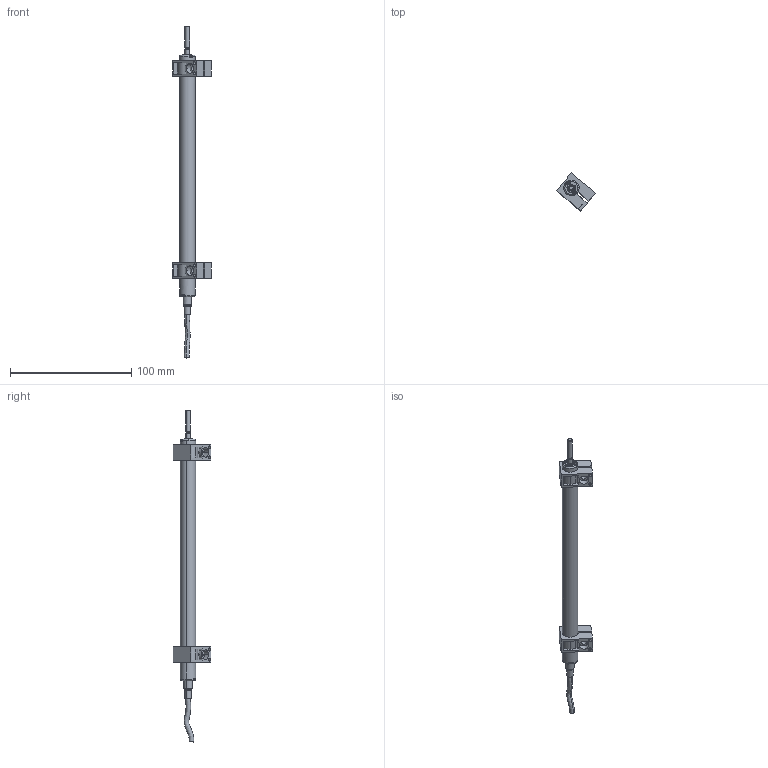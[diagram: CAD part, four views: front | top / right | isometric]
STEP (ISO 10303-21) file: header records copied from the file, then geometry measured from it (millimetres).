
FILE_DESCRIPTION(('STEP AP203'),'1');
FILE_NAME('C:/TPO v2/SharedFS/Outgoing/burster_8709-5155_1rwxs6ax9we78amc85t6kzrxc.stp','2013-08-27T15:08:39',('TraceParts'),('TraceParts S.A.'),'XStep 1.0',' ',' ');
FILE_SCHEMA(('CONFIG_CONTROL_DESIGN'));
Length unit declared in the file: millimetre
Products named in the file (1): 1
Bounding box: 32.11 x 31.32 x 274.2 mm (x, y, z)
Volume: 32195.5 mm3; surface area: 16209.3 mm2
Topology: 1 solids, 6 shells, 420 faces, 1112 edges, 722 vertices
Faces by surface type: plane 195, cylinder 121, cone 82, torus 12, sphere 8, bspline 2
Entity records: 13974 total; most frequent: CARTESIAN_POINT 3230, DIRECTION 2388, ORIENTED_EDGE 2226, EDGE_CURVE 1113, AXIS2_PLACEMENT_3D 956, VERTEX_POINT 722, CIRCLE 521, LINE 476
